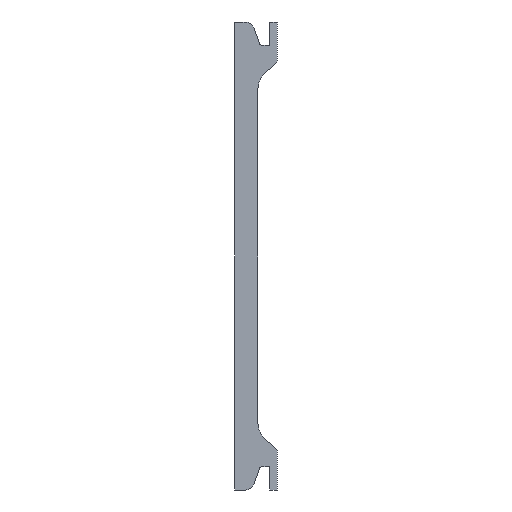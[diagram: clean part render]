
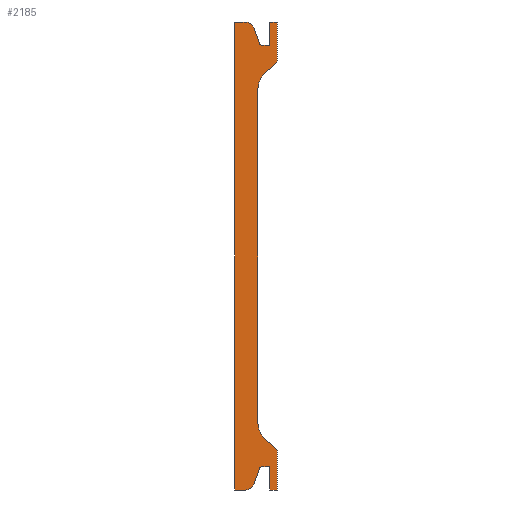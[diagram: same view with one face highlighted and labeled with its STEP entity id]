
A CAD part, left-side view. The second image highlights one B-rep face of the part: STEP entity #2185.
In plain terms, the highlighted planar face has unit normal (-1, 0, 0).
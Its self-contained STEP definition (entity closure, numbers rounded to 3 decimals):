
#40=CIRCLE('',#2302,5.);
#42=CIRCLE('',#2305,1.);
#44=CIRCLE('',#2309,2.5);
#48=CIRCLE('',#2326,5.);
#49=CIRCLE('',#2329,1.);
#50=CIRCLE('',#2332,2.5);
#113=FACE_OUTER_BOUND('',#229,.T.);
#229=EDGE_LOOP('',(#1617,#1618,#1619,#1620,#1621,#1622,#1623,#1624,#1625,
#1626,#1627,#1628,#1629,#1630,#1631,#1632,#1633,#1634,#1635,#1636,#1637,
#1638));
#368=LINE('',#3166,#654);
#378=LINE('',#3196,#664);
#402=LINE('',#3247,#688);
#416=LINE('',#3279,#702);
#420=LINE('',#3289,#706);
#421=LINE('',#3293,#707);
#422=LINE('',#3295,#708);
#423=LINE('',#3297,#709);
#424=LINE('',#3299,#710);
#425=LINE('',#3301,#711);
#426=LINE('',#3302,#712);
#427=LINE('',#3304,#713);
#428=LINE('',#3306,#714);
#429=LINE('',#3308,#715);
#430=LINE('',#3310,#716);
#431=LINE('',#3311,#717);
#654=VECTOR('',#2548,10.);
#664=VECTOR('',#2574,10.);
#688=VECTOR('',#2624,10.);
#702=VECTOR('',#2654,10.);
#706=VECTOR('',#2664,10.);
#707=VECTOR('',#2671,10.);
#708=VECTOR('',#2672,10.);
#709=VECTOR('',#2673,10.);
#710=VECTOR('',#2674,10.);
#711=VECTOR('',#2675,10.);
#712=VECTOR('',#2676,10.);
#713=VECTOR('',#2677,10.);
#714=VECTOR('',#2678,10.);
#715=VECTOR('',#2679,10.);
#716=VECTOR('',#2680,10.);
#717=VECTOR('',#2681,10.);
#926=VERTEX_POINT('',#3163);
#927=VERTEX_POINT('',#3165);
#932=VERTEX_POINT('',#3178);
#933=VERTEX_POINT('',#3180);
#936=VERTEX_POINT('',#3187);
#937=VERTEX_POINT('',#3189);
#939=VERTEX_POINT('',#3195);
#952=VERTEX_POINT('',#3244);
#953=VERTEX_POINT('',#3246);
#962=VERTEX_POINT('',#3273);
#963=VERTEX_POINT('',#3275);
#964=VERTEX_POINT('',#3281);
#965=VERTEX_POINT('',#3283);
#966=VERTEX_POINT('',#3287);
#967=VERTEX_POINT('',#3294);
#968=VERTEX_POINT('',#3296);
#969=VERTEX_POINT('',#3298);
#970=VERTEX_POINT('',#3300);
#971=VERTEX_POINT('',#3303);
#972=VERTEX_POINT('',#3305);
#973=VERTEX_POINT('',#3307);
#974=VERTEX_POINT('',#3309);
#1150=EDGE_CURVE('',#927,#926,#368,.T.);
#1157=EDGE_CURVE('',#933,#932,#40,.T.);
#1161=EDGE_CURVE('',#937,#936,#42,.T.);
#1164=EDGE_CURVE('',#939,#937,#378,.T.);
#1167=EDGE_CURVE('',#926,#939,#44,.T.);
#1190=EDGE_CURVE('',#952,#953,#402,.T.);
#1206=EDGE_CURVE('',#962,#963,#48,.T.);
#1208=EDGE_CURVE('',#963,#932,#416,.T.);
#1210=EDGE_CURVE('',#964,#965,#49,.T.);
#1213=EDGE_CURVE('',#966,#964,#420,.T.);
#1214=EDGE_CURVE('',#953,#966,#50,.T.);
#1215=EDGE_CURVE('',#927,#952,#421,.T.);
#1216=EDGE_CURVE('',#936,#967,#422,.T.);
#1217=EDGE_CURVE('',#967,#968,#423,.T.);
#1218=EDGE_CURVE('',#968,#969,#424,.T.);
#1219=EDGE_CURVE('',#969,#970,#425,.T.);
#1220=EDGE_CURVE('',#970,#933,#426,.T.);
#1221=EDGE_CURVE('',#971,#962,#427,.T.);
#1222=EDGE_CURVE('',#972,#971,#428,.T.);
#1223=EDGE_CURVE('',#973,#972,#429,.T.);
#1224=EDGE_CURVE('',#974,#973,#430,.T.);
#1225=EDGE_CURVE('',#965,#974,#431,.T.);
#1617=ORIENTED_EDGE('',*,*,#1215,.F.);
#1618=ORIENTED_EDGE('',*,*,#1150,.T.);
#1619=ORIENTED_EDGE('',*,*,#1167,.T.);
#1620=ORIENTED_EDGE('',*,*,#1164,.T.);
#1621=ORIENTED_EDGE('',*,*,#1161,.T.);
#1622=ORIENTED_EDGE('',*,*,#1216,.T.);
#1623=ORIENTED_EDGE('',*,*,#1217,.T.);
#1624=ORIENTED_EDGE('',*,*,#1218,.T.);
#1625=ORIENTED_EDGE('',*,*,#1219,.T.);
#1626=ORIENTED_EDGE('',*,*,#1220,.T.);
#1627=ORIENTED_EDGE('',*,*,#1157,.T.);
#1628=ORIENTED_EDGE('',*,*,#1208,.F.);
#1629=ORIENTED_EDGE('',*,*,#1206,.F.);
#1630=ORIENTED_EDGE('',*,*,#1221,.F.);
#1631=ORIENTED_EDGE('',*,*,#1222,.F.);
#1632=ORIENTED_EDGE('',*,*,#1223,.F.);
#1633=ORIENTED_EDGE('',*,*,#1224,.F.);
#1634=ORIENTED_EDGE('',*,*,#1225,.F.);
#1635=ORIENTED_EDGE('',*,*,#1210,.F.);
#1636=ORIENTED_EDGE('',*,*,#1213,.F.);
#1637=ORIENTED_EDGE('',*,*,#1214,.F.);
#1638=ORIENTED_EDGE('',*,*,#1190,.F.);
#2081=PLANE('',#2333);
#2185=ADVANCED_FACE('',(#113),#2081,.F.);
#2302=AXIS2_PLACEMENT_3D('',#3181,#2560,#2561);
#2305=AXIS2_PLACEMENT_3D('',#3190,#2568,#2569);
#2309=AXIS2_PLACEMENT_3D('',#3200,#2580,#2581);
#2326=AXIS2_PLACEMENT_3D('',#3276,#2649,#2650);
#2329=AXIS2_PLACEMENT_3D('',#3284,#2658,#2659);
#2332=AXIS2_PLACEMENT_3D('',#3291,#2667,#2668);
#2333=AXIS2_PLACEMENT_3D('',#3292,#2669,#2670);
#2548=DIRECTION('',(0.,-1.,0.));
#2560=DIRECTION('center_axis',(1.,0.,0.));
#2561=DIRECTION('ref_axis',(0.,0.707,-0.707));
#2568=DIRECTION('center_axis',(1.,0.,0.));
#2569=DIRECTION('ref_axis',(0.,0.949,0.316));
#2574=DIRECTION('',(0.,-0.316,0.949));
#2580=DIRECTION('center_axis',(-1.,0.,0.));
#2581=DIRECTION('ref_axis',(0.,-0.949,-0.316));
#2624=DIRECTION('',(0.,-1.,0.));
#2649=DIRECTION('center_axis',(-1.,0.,0.));
#2650=DIRECTION('ref_axis',(0.,0.707,0.707));
#2654=DIRECTION('',(0.,0.,-1.));
#2658=DIRECTION('center_axis',(-1.,0.,0.));
#2659=DIRECTION('ref_axis',(0.,0.949,-0.316));
#2664=DIRECTION('',(0.,-0.316,-0.949));
#2667=DIRECTION('center_axis',(1.,0.,0.));
#2668=DIRECTION('ref_axis',(0.,-0.949,0.316));
#2669=DIRECTION('center_axis',(1.,0.,0.));
#2670=DIRECTION('ref_axis',(0.,0.,-1.));
#2671=DIRECTION('',(0.,0.,1.));
#2672=DIRECTION('',(0.,-1.,0.));
#2673=DIRECTION('',(0.,0.,-1.));
#2674=DIRECTION('',(0.,-1.,0.));
#2675=DIRECTION('',(0.,0.,1.));
#2676=DIRECTION('',(0.,0.707,0.707));
#2677=DIRECTION('',(0.,0.707,-0.707));
#2678=DIRECTION('',(0.,0.,-1.));
#2679=DIRECTION('',(0.,-1.,0.));
#2680=DIRECTION('',(0.,0.,1.));
#2681=DIRECTION('',(0.,-1.,0.));
#3163=CARTESIAN_POINT('',(39.5,8.302,-60.));
#3165=CARTESIAN_POINT('',(39.5,11.,-60.));
#3166=CARTESIAN_POINT('',(39.5,0.,-60.));
#3178=CARTESIAN_POINT('',(39.5,5.,-42.929));
#3180=CARTESIAN_POINT('',(39.5,3.536,-46.464));
#3181=CARTESIAN_POINT('Origin',(39.5,0.,
-42.929));
#3187=CARTESIAN_POINT('',(39.5,3.779,-54.));
#3189=CARTESIAN_POINT('',(39.5,4.728,-54.684));
#3190=CARTESIAN_POINT('Origin',(39.5,3.779,-55.));
#3195=CARTESIAN_POINT('',(39.5,5.93,-58.291));
#3196=CARTESIAN_POINT('',(39.5,-3.711,-29.367));
#3200=CARTESIAN_POINT('Origin',(39.5,8.302,-57.5));
#3244=CARTESIAN_POINT('',(39.5,11.,60.));
#3246=CARTESIAN_POINT('',(39.5,8.302,60.));
#3247=CARTESIAN_POINT('',(39.5,0.,60.));
#3273=CARTESIAN_POINT('',(39.5,3.536,46.464));
#3275=CARTESIAN_POINT('',(39.5,5.,42.929));
#3276=CARTESIAN_POINT('Origin',(39.5,0.,
42.929));
#3279=CARTESIAN_POINT('',(39.5,5.,-21.464));
#3281=CARTESIAN_POINT('',(39.5,4.728,54.684));
#3283=CARTESIAN_POINT('',(39.5,3.779,54.));
#3284=CARTESIAN_POINT('Origin',(39.5,3.779,55.));
#3287=CARTESIAN_POINT('',(39.5,5.93,58.291));
#3289=CARTESIAN_POINT('',(39.5,-3.711,29.367));
#3291=CARTESIAN_POINT('Origin',(39.5,8.302,57.5));
#3292=CARTESIAN_POINT('Origin',(39.5,0.,0.));
#3293=CARTESIAN_POINT('',(39.5,11.,0.));
#3294=CARTESIAN_POINT('',(39.5,2.,-54.));
#3295=CARTESIAN_POINT('',(39.5,1.,-54.));
#3296=CARTESIAN_POINT('',(39.5,2.,-60.));
#3297=CARTESIAN_POINT('',(39.5,2.,-30.));
#3298=CARTESIAN_POINT('',(39.5,0.,-60.));
#3299=CARTESIAN_POINT('',(39.5,0.,-60.));
#3300=CARTESIAN_POINT('',(39.5,0.,-50.));
#3301=CARTESIAN_POINT('',(39.5,0.,0.));
#3302=CARTESIAN_POINT('',(39.5,14.268,-35.732));
#3303=CARTESIAN_POINT('',(39.5,0.,50.));
#3304=CARTESIAN_POINT('',(39.5,14.268,35.732));
#3305=CARTESIAN_POINT('',(39.5,0.,60.));
#3306=CARTESIAN_POINT('',(39.5,0.,0.));
#3307=CARTESIAN_POINT('',(39.5,2.,60.));
#3308=CARTESIAN_POINT('',(39.5,0.,60.));
#3309=CARTESIAN_POINT('',(39.5,2.,54.));
#3310=CARTESIAN_POINT('',(39.5,2.,30.));
#3311=CARTESIAN_POINT('',(39.5,1.,54.));
